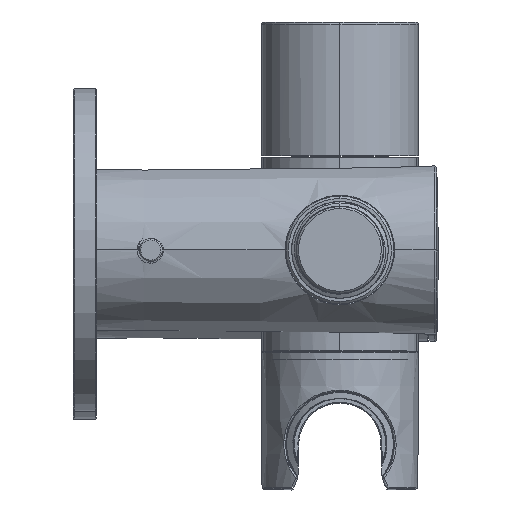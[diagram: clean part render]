
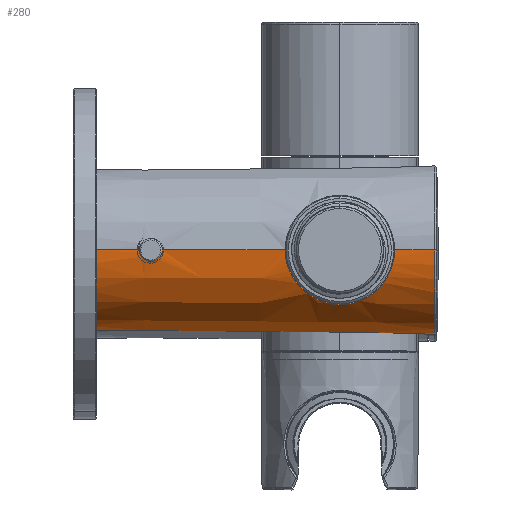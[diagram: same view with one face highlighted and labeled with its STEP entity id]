
A CAD part, top view. The second image highlights one B-rep face of the part: STEP entity #280.
In plain terms, the highlighted conical face has half-angle 0.569 degrees and reference radius 17.875 mm.
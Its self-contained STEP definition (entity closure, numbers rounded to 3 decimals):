
#1=CARTESIAN_POINT('',(-16.,0.,17.664));
#18=CARTESIAN_POINT('',(-21.,0.,17.614));
#25=CARTESIAN_POINT('',(12.,0.,-17.942));
#49=CARTESIAN_POINT('',(33.,0.,-18.151));
#73=CARTESIAN_POINT('',(10.65,0.,17.929));
#75=CARTESIAN_POINT('',(-21.,0.,17.614));
#76=CARTESIAN_POINT('',(-21.,-0.179,17.614));
#77=CARTESIAN_POINT('',(-20.962,-0.529,17.609));
#78=CARTESIAN_POINT('',(-20.796,-1.035,17.588));
#79=CARTESIAN_POINT('',(-20.526,-1.496,17.557));
#80=CARTESIAN_POINT('',(-20.169,-1.886,17.522));
#81=CARTESIAN_POINT('',(-19.733,-2.196,17.49));
#82=CARTESIAN_POINT('',(-19.247,-2.405,17.467));
#83=CARTESIAN_POINT('',(-18.72,-2.509,17.457));
#84=CARTESIAN_POINT('',(-18.193,-2.5,17.464));
#85=CARTESIAN_POINT('',(-17.675,-2.379,17.486));
#86=CARTESIAN_POINT('',(-17.206,-2.16,17.52));
#87=CARTESIAN_POINT('',(-16.789,-1.847,17.56));
#88=CARTESIAN_POINT('',(-16.449,-1.461,17.601));
#89=CARTESIAN_POINT('',(-16.193,-1.009,17.635));
#90=CARTESIAN_POINT('',(-16.036,-0.515,17.658));
#91=CARTESIAN_POINT('',(-16.,-0.174,17.664));
#92=CARTESIAN_POINT('',(-16.,0.,17.664));
#94=DIRECTION('',(1.,0.,0.01));
#95=VECTOR('',#94,26.651);
#96=CARTESIAN_POINT('',(-16.,0.,17.664));
#97=LINE('',#96,#95);
#98=CARTESIAN_POINT('',(10.65,0.,17.929));
#99=CARTESIAN_POINT('',(10.65,-0.64,17.929));
#100=CARTESIAN_POINT('',(10.753,-1.896,17.861));
#101=CARTESIAN_POINT('',(11.194,-3.703,17.578));
#102=CARTESIAN_POINT('',(11.895,-5.391,17.14));
#103=CARTESIAN_POINT('',(12.853,-6.962,16.572));
#104=CARTESIAN_POINT('',(14.049,-8.382,15.912));
#105=CARTESIAN_POINT('',(15.606,-9.714,15.15));
#106=CARTESIAN_POINT('',(17.387,-10.749,14.444));
#107=CARTESIAN_POINT('',(19.1,-11.398,13.952));
#108=CARTESIAN_POINT('',(20.828,-11.774,13.655));
#109=CARTESIAN_POINT('',(22.535,-11.89,13.576));
#110=CARTESIAN_POINT('',(24.24,-11.765,13.709));
#111=CARTESIAN_POINT('',(25.958,-11.379,14.056));
#112=CARTESIAN_POINT('',(27.641,-10.736,14.582));
#113=CARTESIAN_POINT('',(29.442,-9.681,15.335));
#114=CARTESIAN_POINT('',(30.975,-8.357,16.115));
#115=CARTESIAN_POINT('',(32.172,-6.928,16.794));
#116=CARTESIAN_POINT('',(33.119,-5.363,17.369));
#117=CARTESIAN_POINT('',(33.811,-3.687,17.81));
#118=CARTESIAN_POINT('',(34.247,-1.894,18.096));
#119=CARTESIAN_POINT('',(34.35,-0.64,18.164));
#120=CARTESIAN_POINT('',(34.35,0.,18.164));
#122=DIRECTION('',(1.,0.,0.01));
#123=VECTOR('',#122,8.651);
#124=CARTESIAN_POINT('',(34.35,0.,18.164));
#125=LINE('',#124,#123);
#126=DIRECTION('',(1.,0.,-0.01));
#127=VECTOR('',#126,10.001);
#128=CARTESIAN_POINT('',(33.,0.,-18.151));
#129=LINE('',#128,#127);
#130=CARTESIAN_POINT('',(33.,0.,-18.151));
#131=CARTESIAN_POINT('',(33.,-0.545,-18.151));
#132=CARTESIAN_POINT('',(32.917,-1.628,-18.101));
#133=CARTESIAN_POINT('',(32.531,-3.246,-17.877));
#134=CARTESIAN_POINT('',(31.91,-4.75,-17.528));
#135=CARTESIAN_POINT('',(31.089,-6.106,-17.09));
#136=CARTESIAN_POINT('',(30.119,-7.276,-16.611));
#137=CARTESIAN_POINT('',(29.013,-8.28,-16.119));
#138=CARTESIAN_POINT('',(27.816,-9.092,-15.657));
#139=CARTESIAN_POINT('',(26.555,-9.717,-15.259));
#140=CARTESIAN_POINT('',(25.293,-10.152,-14.956));
#141=CARTESIAN_POINT('',(23.921,-10.437,-14.74));
#142=CARTESIAN_POINT('',(22.447,-10.535,-14.651));
#143=CARTESIAN_POINT('',(20.964,-10.422,-14.715));
#144=CARTESIAN_POINT('',(19.575,-10.114,-14.913));
#145=CARTESIAN_POINT('',(18.34,-9.671,-15.191));
#146=CARTESIAN_POINT('',(17.105,-9.045,-15.561));
#147=CARTESIAN_POINT('',(15.938,-8.239,-15.993));
#148=CARTESIAN_POINT('',(14.854,-7.247,-16.458));
#149=CARTESIAN_POINT('',(13.899,-6.088,-16.915));
#150=CARTESIAN_POINT('',(13.084,-4.737,-17.338));
#151=CARTESIAN_POINT('',(12.465,-3.233,-17.677));
#152=CARTESIAN_POINT('',(12.082,-1.616,-17.895));
#153=CARTESIAN_POINT('',(12.,-0.541,-17.942));
#154=CARTESIAN_POINT('',(12.,0.,-17.942));
#156=DIRECTION('',(1.,0.,-0.01));
#157=VECTOR('',#156,44.502);
#158=CARTESIAN_POINT('',(-32.5,0.,-17.5));
#159=LINE('',#158,#157);
#160=CARTESIAN_POINT('',(-32.5,0.,0.));
#161=DIRECTION('',(-1.,0.,0.));
#162=DIRECTION('',(0.,0.,-1.));
#163=AXIS2_PLACEMENT_3D('',#160,#161,#162);
#165=DIRECTION('',(1.,0.,0.01));
#166=VECTOR('',#165,11.501);
#167=CARTESIAN_POINT('',(-32.5,0.,17.5));
#168=LINE('',#167,#166);
#174=CARTESIAN_POINT('',(43.001,0.,0.));
#175=DIRECTION('',(-1.,0.,0.));
#176=DIRECTION('',(0.,0.,-1.));
#177=AXIS2_PLACEMENT_3D('',#174,#175,#176);
#209=CARTESIAN_POINT('',(-32.5,0.,-17.5));
#210=CARTESIAN_POINT('',(-32.5,0.,17.5));
#211=VERTEX_POINT('',#209);
#212=VERTEX_POINT('',#210);
#213=VERTEX_POINT('',#49);
#214=VERTEX_POINT('',#25);
#215=CARTESIAN_POINT('',(43.001,0.,-18.25));
#216=VERTEX_POINT('',#215);
#217=CARTESIAN_POINT('',(34.35,0.,18.164));
#218=CARTESIAN_POINT('',(43.001,0.,18.25));
#219=VERTEX_POINT('',#217);
#220=VERTEX_POINT('',#218);
#227=VERTEX_POINT('',#73);
#228=VERTEX_POINT('',#18);
#229=VERTEX_POINT('',#1);
#258=CARTESIAN_POINT('',(5.25,0.,0.));
#259=DIRECTION('',(1.,0.,0.));
#260=DIRECTION('',(0.,0.,-1.));
#261=AXIS2_PLACEMENT_3D('',#258,#259,#260);
#262=CONICAL_SURFACE('',#261,17.875,0.569);
#264=ORIENTED_EDGE('',*,*,#263,.T.);
#265=ORIENTED_EDGE('',*,*,#253,.T.);
#267=ORIENTED_EDGE('',*,*,#266,.T.);
#268=ORIENTED_EDGE('',*,*,#249,.T.);
#270=ORIENTED_EDGE('',*,*,#269,.F.);
#271=ORIENTED_EDGE('',*,*,#245,.F.);
#273=ORIENTED_EDGE('',*,*,#272,.T.);
#274=ORIENTED_EDGE('',*,*,#241,.F.);
#276=ORIENTED_EDGE('',*,*,#275,.T.);
#277=ORIENTED_EDGE('',*,*,#237,.T.);
#278=EDGE_LOOP('',(#264,#265,#267,#268,#270,#271,#273,#274,#276,#277));
#279=FACE_OUTER_BOUND('',#278,.F.);
#280=ADVANCED_FACE('',(#279),#262,.T.);
#93=B_SPLINE_CURVE_WITH_KNOTS('',3,(#75,#76,#77,#78,#79,#80,#81,#82,#83,#84,#85,
#86,#87,#88,#89,#90,#91,#92),.UNSPECIFIED.,.F.,.F.,(4,1,1,1,1,1,1,1,1,1,1,1,1,1,
1,4),(0.,0.067,0.133,0.2,0.267,
0.333,0.4,0.467,0.533,0.6,
0.667,0.733,0.8,0.867,0.933,
1.),.UNSPECIFIED.);
#121=B_SPLINE_CURVE_WITH_KNOTS('',3,(#98,#99,#100,#101,#102,#103,#104,#105,#106,
#107,#108,#109,#110,#111,#112,#113,#114,#115,#116,#117,#118,#119,#120),
.UNSPECIFIED.,.F.,.F.,(4,1,1,1,1,1,1,1,1,1,1,1,1,1,1,1,1,1,1,1,4),(0.,0.05,
0.1,0.15,0.2,0.25,0.3,0.35,0.4,0.45,0.5,0.55,0.6,0.65,
0.7,0.75,0.8,0.85,0.9,0.95,1.),.UNSPECIFIED.);
#155=B_SPLINE_CURVE_WITH_KNOTS('',3,(#130,#131,#132,#133,#134,#135,#136,#137,
#138,#139,#140,#141,#142,#143,#144,#145,#146,#147,#148,#149,#150,#151,#152,#153,
#154),.UNSPECIFIED.,.F.,.F.,(4,1,1,1,1,1,1,1,1,1,1,1,1,1,1,1,1,1,1,1,1,1,4),(
0.,0.045,0.091,0.136,0.182,
0.227,0.273,0.318,0.364,
0.409,0.455,0.5,0.545,0.591,
0.636,0.682,0.727,0.773,
0.818,0.864,0.909,0.955,1.),
.UNSPECIFIED.);
#164=CIRCLE('',#163,17.5);
#178=CIRCLE('',#177,18.25);
#237=EDGE_CURVE('',#212,#228,#168,.T.);
#241=EDGE_CURVE('',#211,#214,#159,.T.);
#245=EDGE_CURVE('',#213,#216,#129,.T.);
#249=EDGE_CURVE('',#219,#220,#125,.T.);
#253=EDGE_CURVE('',#229,#227,#97,.T.);
#263=EDGE_CURVE('',#228,#229,#93,.T.);
#266=EDGE_CURVE('',#227,#219,#121,.T.);
#269=EDGE_CURVE('',#216,#220,#178,.T.);
#272=EDGE_CURVE('',#213,#214,#155,.T.);
#275=EDGE_CURVE('',#211,#212,#164,.T.);
